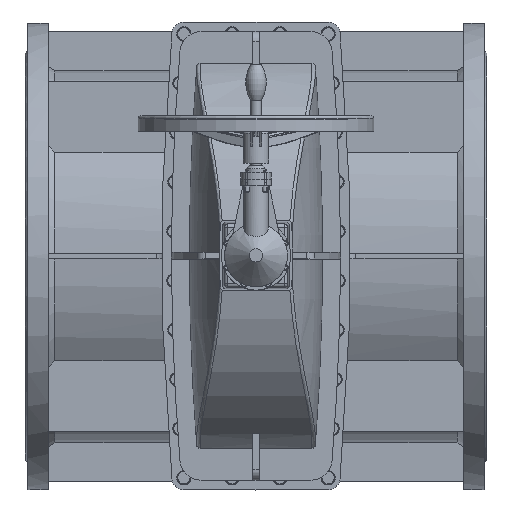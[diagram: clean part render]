
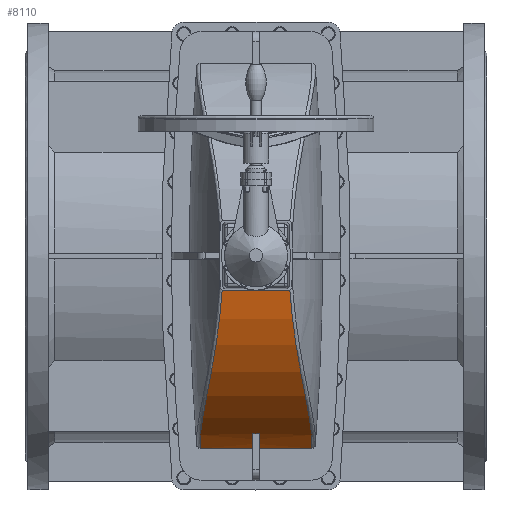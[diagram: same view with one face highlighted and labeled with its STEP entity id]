
A CAD part, top view. The second image highlights one B-rep face of the part: STEP entity #8110.
In plain terms, the highlighted cylindrical face has radius 402.667 mm (diameter 805.333 mm), a partial arc.
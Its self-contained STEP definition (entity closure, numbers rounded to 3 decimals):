
#8110=ADVANCED_FACE('',(#16056),#16058,.T.);
#16056=FACE_BOUND('',#16057,.T.);
#16057=EDGE_LOOP('',(#29356,#29357,#29358,#29359,#29360,#29361,#29362,#29363));
#16058=CYLINDRICAL_SURFACE('',#16059,402.667);
#16059=AXIS2_PLACEMENT_3D('',#16060,#16061,#16062);
#16060=CARTESIAN_POINT('',(0.,-131.005,-39.5));
#16061=DIRECTION('',(0.,1.,0.));
#16062=DIRECTION('',(-0.933,0.,0.36));
#29356=ORIENTED_EDGE('',*,*,#34032,.F.);
#29357=ORIENTED_EDGE('',*,*,#34033,.F.);
#29358=ORIENTED_EDGE('',*,*,#34034,.F.);
#29359=ORIENTED_EDGE('',*,*,#34035,.F.);
#29360=ORIENTED_EDGE('',*,*,#34036,.F.);
#29361=ORIENTED_EDGE('',*,*,#34037,.T.);
#29362=ORIENTED_EDGE('',*,*,#34038,.F.);
#29363=ORIENTED_EDGE('',*,*,#34039,.F.);
#34032=EDGE_CURVE('',#38534,#38535,#38536,.F.);
#34033=EDGE_CURVE('',#38537,#38534,#38538,.T.);
#34034=EDGE_CURVE('',#38539,#38537,#38540,.T.);
#34035=EDGE_CURVE('',#38541,#38539,#38542,.T.);
#34036=EDGE_CURVE('',#38543,#38541,#38544,.F.);
#34037=EDGE_CURVE('',#38543,#38545,#38546,.T.);
#34038=EDGE_CURVE('',#38547,#38545,#38548,.T.);
#34039=EDGE_CURVE('',#38535,#38547,#38549,.T.);
#38534=VERTEX_POINT('',#56666);
#38535=VERTEX_POINT('',#56667);
#38536=CIRCLE('',#56668,402.667);
#38537=VERTEX_POINT('',#56672);
#38538=LINE('',#56673,#56674);
#38539=VERTEX_POINT('',#56676);
#38540=CIRCLE('',#56677,402.667);
#38541=VERTEX_POINT('',#56681);
#38542=LINE('',#56682,#56683);
#38543=VERTEX_POINT('',#56685);
#38544=B_SPLINE_CURVE_WITH_KNOTS('',3,
(#56686,#56687,#56688,#56689,#56690,#56691,#56692,#56693,#56694,#56695,#56696,#56697,
#56698,#56699),
.UNSPECIFIED.,.F.,.F.,
(4,1,1,1,1,1,1,1,1,1,1,4),
(0.,0.098,0.184,0.264,0.352,0.451,
0.56,0.671,0.775,0.864,0.938,
1.),
.UNSPECIFIED.);
#38545=VERTEX_POINT('',#56700);
#38546=LINE('',#56701,#56702);
#38547=VERTEX_POINT('',#56704);
#38548=B_SPLINE_CURVE_WITH_KNOTS('',3,
(#56705,#56706,#56707,#56708,#56709,#56710,#56711,#56712,#56713,#56714,#56715,#56716,
#56717,#56718),
.UNSPECIFIED.,.F.,.F.,
(4,1,1,1,1,1,1,1,1,1,1,4),
(0.,0.098,0.184,0.264,0.352,0.451,
0.56,0.671,0.775,0.864,0.938,
1.),
.UNSPECIFIED.);
#38549=LINE('',#56719,#56720);
#56666=CARTESIAN_POINT('',(-346.675,6.583,165.333));
#56667=CARTESIAN_POINT('',(-375.718,6.583,105.333));
#56668=AXIS2_PLACEMENT_3D('',#56669,#56670,#56671);
#56669=CARTESIAN_POINT('',(0.,6.583,-39.5));
#56670=DIRECTION('',(0.,1.,0.));
#56671=DIRECTION('',(-0.933,0.,0.36));
#56672=CARTESIAN_POINT('',(-346.675,-6.583,165.333));
#56673=CARTESIAN_POINT('',(-346.675,-6.583,165.333));
#56674=VECTOR('',#56675,1.);
#56675=DIRECTION('',(0.,1.,0.));
#56676=CARTESIAN_POINT('',(-375.718,-6.583,105.333));
#56677=AXIS2_PLACEMENT_3D('',#56678,#56679,#56680);
#56678=CARTESIAN_POINT('',(0.,-6.583,-39.5));
#56679=DIRECTION('',(0.,1.,0.));
#56680=DIRECTION('',(-0.933,0.,0.36));
#56681=CARTESIAN_POINT('',(-375.718,-109.116,105.333));
#56682=CARTESIAN_POINT('',(-375.718,-109.116,105.333));
#56683=VECTOR('',#56684,1.);
#56684=DIRECTION('',(0.,1.,0.));
#56685=CARTESIAN_POINT('',(-67.731,-65.981,357.429));
#56686=CARTESIAN_POINT('',(-375.718,-109.116,105.333));
#56687=CARTESIAN_POINT('',(-370.815,-109.603,118.052));
#56688=CARTESIAN_POINT('',(-360.365,-109.589,141.533));
#56689=CARTESIAN_POINT('',(-342.224,-107.979,173.635));
#56690=CARTESIAN_POINT('',(-322.263,-105.121,202.767));
#56691=CARTESIAN_POINT('',(-298.729,-101.024,231.435));
#56692=CARTESIAN_POINT('',(-269.814,-95.486,260.441));
#56693=CARTESIAN_POINT('',(-235.423,-88.802,288.235));
#56694=CARTESIAN_POINT('',(-197.65,-81.891,312.264));
#56695=CARTESIAN_POINT('',(-159.769,-75.81,330.843));
#56696=CARTESIAN_POINT('',(-125.034,-71.192,343.768));
#56697=CARTESIAN_POINT('',(-94.814,-68.039,352.188));
#56698=CARTESIAN_POINT('',(-76.275,-66.529,355.971));
#56699=CARTESIAN_POINT('',(-67.731,-65.981,357.429));
#56700=CARTESIAN_POINT('',(-67.731,65.981,357.429));
#56701=CARTESIAN_POINT('',(-67.731,-65.981,357.429));
#56702=VECTOR('',#56703,1.);
#56703=DIRECTION('',(0.,1.,0.));
#56704=CARTESIAN_POINT('',(-375.718,109.116,105.333));
#56705=CARTESIAN_POINT('',(-375.718,109.116,105.333));
#56706=CARTESIAN_POINT('',(-370.815,109.603,118.052));
#56707=CARTESIAN_POINT('',(-360.365,109.589,141.533));
#56708=CARTESIAN_POINT('',(-342.224,107.979,173.635));
#56709=CARTESIAN_POINT('',(-322.263,105.121,202.767));
#56710=CARTESIAN_POINT('',(-298.729,101.024,231.435));
#56711=CARTESIAN_POINT('',(-269.814,95.486,260.441));
#56712=CARTESIAN_POINT('',(-235.423,88.802,288.235));
#56713=CARTESIAN_POINT('',(-197.65,81.891,312.264));
#56714=CARTESIAN_POINT('',(-159.769,75.81,330.843));
#56715=CARTESIAN_POINT('',(-125.034,71.192,343.768));
#56716=CARTESIAN_POINT('',(-94.814,68.039,352.188));
#56717=CARTESIAN_POINT('',(-76.275,66.529,355.971));
#56718=CARTESIAN_POINT('',(-67.731,65.981,357.429));
#56719=CARTESIAN_POINT('',(-375.718,6.583,105.333));
#56720=VECTOR('',#56721,1.);
#56721=DIRECTION('',(0.,1.,0.));
